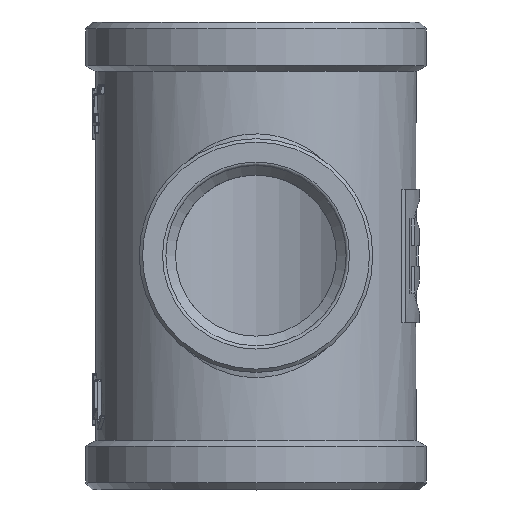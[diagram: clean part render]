
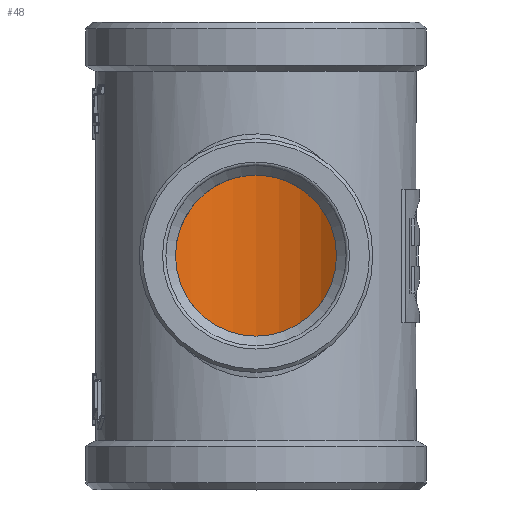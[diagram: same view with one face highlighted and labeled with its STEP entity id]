
A CAD part, top view. The second image highlights one B-rep face of the part: STEP entity #48.
In plain terms, the highlighted cylindrical face has radius 19.477 mm (diameter 38.953 mm), a full revolution.
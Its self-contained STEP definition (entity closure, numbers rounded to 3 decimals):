
#48=ADVANCED_FACE('',(#437,#439,#441),#443,.F.);
#437=FACE_OUTER_BOUND('',#438,.T.);
#438=EDGE_LOOP('',(#3153));
#439=FACE_OUTER_BOUND('',#440,.T.);
#440=EDGE_LOOP('',(#3154));
#441=FACE_BOUND('',#442,.T.);
#442=EDGE_LOOP('',(#3155));
#443=CYLINDRICAL_SURFACE('',#444,19.476);
#444=AXIS2_PLACEMENT_3D('',#445,#446,#447);
#445=CARTESIAN_POINT('',(0.,-36.,0.));
#446=DIRECTION('',(0.,1.,0.));
#447=DIRECTION('',(-1.,0.,0.));
#3153=ORIENTED_EDGE('',*,*,#5670,.T.);
#3154=ORIENTED_EDGE('',*,*,#5671,.F.);
#3155=ORIENTED_EDGE('',*,*,#5667,.T.);
#5667=EDGE_CURVE('',#6637,#6637,#6638,.T.);
#5670=EDGE_CURVE('',#6643,#6643,#6644,.T.);
#5671=EDGE_CURVE('',#6645,#6645,#6646,.T.);
#6637=VERTEX_POINT('',#8269);
#6638=B_SPLINE_CURVE_WITH_KNOTS('',3,
(#8270,#8271,#8272,#8273,#8274,#8275,#8276,#8277,#8278,#8279,#8280,#8281,#8282,#8283,
#8284,#8285,#8286,#8287,#8288,#8289,#8290,#8291,#8292,#8293,#8294,#8295,#8296,#8297,
#8298,#8299,#8300,#8301,#8302,#8303,#8304,#8305,#8306,#8307,#8308,#8309,#8310,#8311,
#8312,#8313,#8314,#8315,#8316,#8317,#8318,#8319,#8320,#8321,#8322,#8323,#8324,#8325,
#8326,#8327,#8328,#8329,#8330,#8331,#8332,#8333,#8334,#8335,#8336,#8337,#8338,#8339,
#8340,#8341,#8342,#8343,#8344,#8345,#8346,#8347,#8348,#8349,#8350,#8351),
.UNSPECIFIED.,.T.,.F.,
(4,1,1,1,1,1,1,1,1,1,1,1,1,1,1,1,1,1,1,1,1,1,1,1,1,1,1,1,1,1,1,1,1,1,1,1,1,1,1,1,
1,1,1,1,1,1,1,1,1,1,1,1,1,1,1,1,1,1,1,1,1,1,1,1,1,1,1,1,1,1,1,1,1,1,1,1,1,1,1,4),
(0.,0.013,0.025,0.037,0.049,0.06,
0.071,0.083,0.098,0.113,0.129,
0.142,0.155,0.169,0.183,0.198,
0.212,0.225,0.238,0.25,0.251,
0.263,0.274,0.287,0.3,0.314,
0.328,0.343,0.359,0.373,0.387,
0.399,0.411,0.422,0.433,0.444,
0.456,0.468,0.479,0.491,0.5,
0.503,0.515,0.526,0.538,0.55,
0.563,0.581,0.599,0.619,0.635,
0.651,0.666,0.681,0.696,0.71,
0.723,0.736,0.749,0.75,0.761,
0.773,0.785,0.798,0.812,0.826,
0.842,0.857,0.872,0.885,0.897,
0.909,0.92,0.93,0.941,0.953,
0.964,0.976,0.988,1.),
.UNSPECIFIED.);
#6643=VERTEX_POINT('',#8362);
#6644=CIRCLE('',#8363,19.476);
#6645=VERTEX_POINT('',#8367);
#6646=CIRCLE('',#8368,19.476);
#8269=CARTESIAN_POINT('',(0.,12.059,19.476));
#8270=CARTESIAN_POINT('',(0.,12.059,19.476));
#8271=CARTESIAN_POINT('',(-0.338,12.059,19.476));
#8272=CARTESIAN_POINT('',(-0.999,12.031,19.459));
#8273=CARTESIAN_POINT('',(-1.961,11.911,19.385));
#8274=CARTESIAN_POINT('',(-2.865,11.725,19.271));
#8275=CARTESIAN_POINT('',(-3.72,11.482,19.124));
#8276=CARTESIAN_POINT('',(-4.537,11.184,18.947));
#8277=CARTESIAN_POINT('',(-5.325,10.831,18.74));
#8278=CARTESIAN_POINT('',(-6.164,10.381,18.483));
#8279=CARTESIAN_POINT('',(-7.042,9.811,18.168));
#8280=CARTESIAN_POINT('',(-7.941,9.1,17.793));
#8281=CARTESIAN_POINT('',(-8.718,8.353,17.423));
#8282=CARTESIAN_POINT('',(-9.385,7.592,17.071));
#8283=CARTESIAN_POINT('',(-9.964,6.816,16.739));
#8284=CARTESIAN_POINT('',(-10.506,5.95,16.404));
#8285=CARTESIAN_POINT('',(-10.994,4.994,16.08));
#8286=CARTESIAN_POINT('',(-11.399,3.985,15.795));
#8287=CARTESIAN_POINT('',(-11.704,2.964,15.568));
#8288=CARTESIAN_POINT('',(-11.915,1.949,15.407));
#8289=CARTESIAN_POINT('',(-12.034,0.963,15.314));
#8290=CARTESIAN_POINT('',(-12.059,0.298,15.294));
#8291=CARTESIAN_POINT('',(-12.058,-0.339,15.295));
#8292=CARTESIAN_POINT('',(-12.032,-0.974,15.316));
#8293=CARTESIAN_POINT('',(-11.92,-1.907,15.404));
#8294=CARTESIAN_POINT('',(-11.731,-2.852,15.548));
#8295=CARTESIAN_POINT('',(-11.456,-3.81,15.752));
#8296=CARTESIAN_POINT('',(-11.086,-4.786,16.016));
#8297=CARTESIAN_POINT('',(-10.612,-5.763,16.336));
#8298=CARTESIAN_POINT('',(-10.033,-6.721,16.699));
#8299=CARTESIAN_POINT('',(-9.371,-7.616,17.08));
#8300=CARTESIAN_POINT('',(-8.663,-8.41,17.45));
#8301=CARTESIAN_POINT('',(-7.935,-9.098,17.793));
#8302=CARTESIAN_POINT('',(-7.211,-9.68,18.098));
#8303=CARTESIAN_POINT('',(-6.491,-10.174,18.368));
#8304=CARTESIAN_POINT('',(-5.775,-10.597,18.606));
#8305=CARTESIAN_POINT('',(-5.029,-10.971,18.822));
#8306=CARTESIAN_POINT('',(-4.231,-11.304,19.018));
#8307=CARTESIAN_POINT('',(-3.384,-11.586,19.187));
#8308=CARTESIAN_POINT('',(-2.502,-11.808,19.322));
#8309=CARTESIAN_POINT('',(-1.599,-11.964,19.418));
#8310=CARTESIAN_POINT('',(-0.762,-12.044,19.467));
#8311=CARTESIAN_POINT('',(-0.143,-12.061,19.478));
#8312=CARTESIAN_POINT('',(0.468,-12.055,19.474));
#8313=CARTESIAN_POINT('',(1.152,-12.015,19.449));
#8314=CARTESIAN_POINT('',(2.048,-11.895,19.375));
#8315=CARTESIAN_POINT('',(2.943,-11.707,19.26));
#8316=CARTESIAN_POINT('',(3.841,-11.444,19.101));
#8317=CARTESIAN_POINT('',(4.852,-11.06,18.873));
#8318=CARTESIAN_POINT('',(5.963,-10.512,18.555));
#8319=CARTESIAN_POINT('',(7.147,-9.748,18.132));
#8320=CARTESIAN_POINT('',(8.187,-8.887,17.683));
#8321=CARTESIAN_POINT('',(9.064,-7.982,17.246));
#8322=CARTESIAN_POINT('',(9.776,-7.09,16.851));
#8323=CARTESIAN_POINT('',(10.397,-6.144,16.474));
#8324=CARTESIAN_POINT('',(10.924,-5.148,16.128));
#8325=CARTESIAN_POINT('',(11.351,-4.121,15.829));
#8326=CARTESIAN_POINT('',(11.67,-3.096,15.594));
#8327=CARTESIAN_POINT('',(11.893,-2.08,15.424));
#8328=CARTESIAN_POINT('',(12.024,-1.081,15.322));
#8329=CARTESIAN_POINT('',(12.058,-0.385,15.295));
#8330=CARTESIAN_POINT('',(12.06,0.252,15.293));
#8331=CARTESIAN_POINT('',(12.038,0.874,15.311));
#8332=CARTESIAN_POINT('',(11.939,1.779,15.388));
#8333=CARTESIAN_POINT('',(11.76,2.726,15.526));
#8334=CARTESIAN_POINT('',(11.496,3.688,15.723));
#8335=CARTESIAN_POINT('',(11.136,4.668,15.982));
#8336=CARTESIAN_POINT('',(10.673,5.65,16.296));
#8337=CARTESIAN_POINT('',(10.105,6.612,16.655));
#8338=CARTESIAN_POINT('',(9.455,7.512,17.034));
#8339=CARTESIAN_POINT('',(8.758,8.31,17.402));
#8340=CARTESIAN_POINT('',(8.041,9.003,17.745));
#8341=CARTESIAN_POINT('',(7.328,9.591,18.051));
#8342=CARTESIAN_POINT('',(6.618,10.092,18.323));
#8343=CARTESIAN_POINT('',(5.916,10.518,18.561));
#8344=CARTESIAN_POINT('',(5.195,10.893,18.776));
#8345=CARTESIAN_POINT('',(4.433,11.225,18.971));
#8346=CARTESIAN_POINT('',(3.617,11.515,19.144));
#8347=CARTESIAN_POINT('',(2.749,11.753,19.288));
#8348=CARTESIAN_POINT('',(1.849,11.928,19.396));
#8349=CARTESIAN_POINT('',(0.928,12.035,19.462));
#8350=CARTESIAN_POINT('',(0.309,12.059,19.476));
#8351=CARTESIAN_POINT('',(0.,12.059,19.476));
#8362=CARTESIAN_POINT('',(-19.476,31.176,0.));
#8363=AXIS2_PLACEMENT_3D('',#8364,#8365,#8366);
#8364=CARTESIAN_POINT('',(0.,31.176,0.));
#8365=DIRECTION('',(0.,1.,0.));
#8366=DIRECTION('',(-1.,0.,0.));
#8367=CARTESIAN_POINT('',(-19.476,-31.2,0.));
#8368=AXIS2_PLACEMENT_3D('',#8369,#8370,#8371);
#8369=CARTESIAN_POINT('',(0.,-31.2,0.));
#8370=DIRECTION('',(0.,1.,0.));
#8371=DIRECTION('',(-1.,0.,0.));
